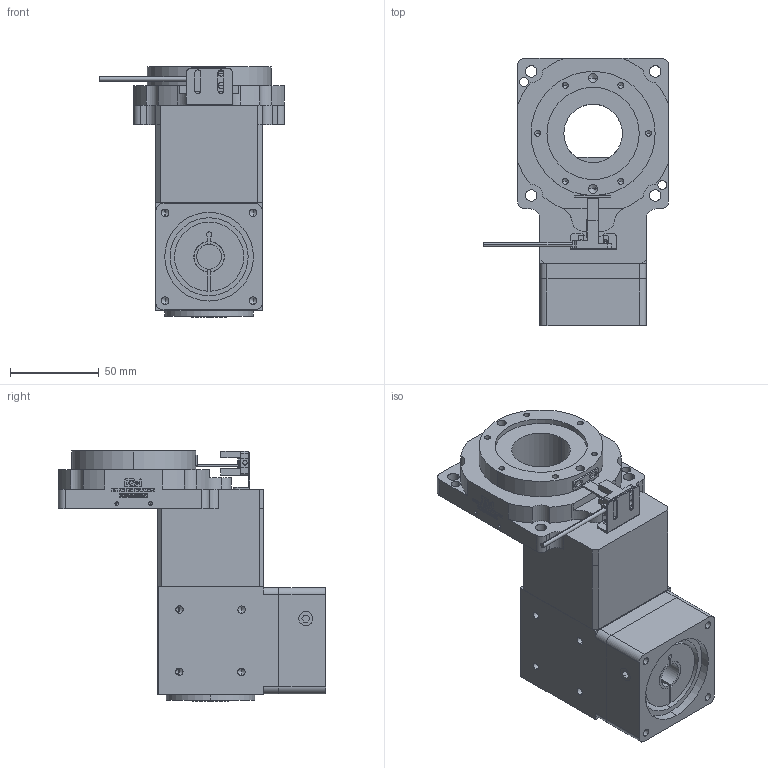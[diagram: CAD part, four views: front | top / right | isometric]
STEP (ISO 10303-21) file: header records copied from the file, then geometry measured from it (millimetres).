
FILE_DESCRIPTION (( 'STEP AP214' ), '1' );
FILE_NAME ('GT85-C-10-Z-14-50-70-M4-2.STEP', '2024-07-08T02:06:27', ( '' ), ( '' ), 'SwSTEP 2.0', 'SolidWorks 2021', '' );
FILE_SCHEMA (( 'AUTOMOTIVE_DESIGN' ));
Length unit declared in the file: millimetre
Products named in the file (1): GT85-C-10-Z-14-50-70-M4-2
Bounding box: 104.3 x 150.8 x 141 mm (x, y, z)
Volume: 651289 mm3; surface area: 101614.6 mm2
Topology: 6 solids, 8 shells, 980 faces, 2619 edges, 1685 vertices
Faces by surface type: plane 622, cylinder 221, cone 78, bspline 57, torus 2
Entity records: 36553 total; most frequent: CARTESIAN_POINT 7104, ORIENTED_EDGE 5106, DIRECTION 4659, EDGE_CURVE 2553, LINE 1893, VECTOR 1893, VERTEX_POINT 1685, AXIS2_PLACEMENT_3D 1383
